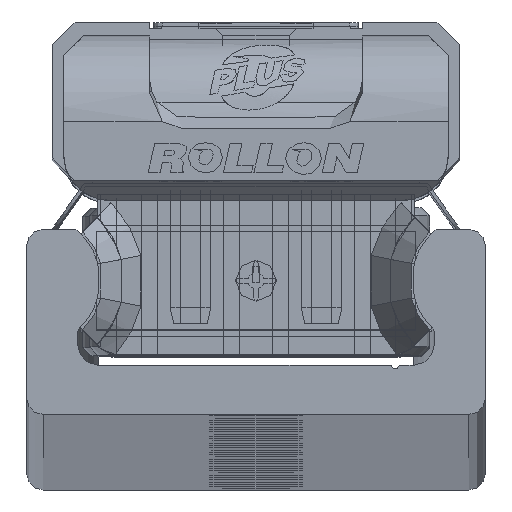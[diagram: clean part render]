
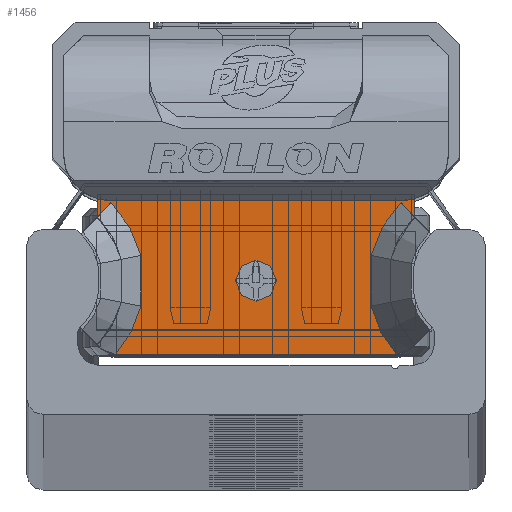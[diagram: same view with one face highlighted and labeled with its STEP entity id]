
A CAD part, top view. The second image highlights one B-rep face of the part: STEP entity #1456.
In plain terms, the highlighted planar face has unit normal (0, 0, 1) as drawn and (0, 0, -1) by its records, which use the part's own axes.
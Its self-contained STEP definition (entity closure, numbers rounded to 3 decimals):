
#1456 = ADVANCED_FACE( '', ( #3354, #3355 ), #3356, .F. );
#3354 = FACE_BOUND( '', #5772, .T. );
#3355 = FACE_OUTER_BOUND( '', #5773, .T. );
#3356 = PLANE( '', #5774 );
#5772 = EDGE_LOOP( '', ( #9739 ) );
#5773 = EDGE_LOOP( '', ( #9740, #9741, #9742, #9743, #9744, #9745, #9746, #9747, #9748, #9749, #9750, #9751, #9752, #9753 ) );
#5774 = AXIS2_PLACEMENT_3D( '', #9754, #9755, #9756 );
#9739 = ORIENTED_EDGE( '', *, *, #13340, .T. );
#9740 = ORIENTED_EDGE( '', *, *, #14453, .F. );
#9741 = ORIENTED_EDGE( '', *, *, #14454, .T. );
#9742 = ORIENTED_EDGE( '', *, *, #14455, .T. );
#9743 = ORIENTED_EDGE( '', *, *, #14384, .T. );
#9744 = ORIENTED_EDGE( '', *, *, #14456, .T. );
#9745 = ORIENTED_EDGE( '', *, *, #14457, .T. );
#9746 = ORIENTED_EDGE( '', *, *, #13217, .T. );
#9747 = ORIENTED_EDGE( '', *, *, #14458, .T. );
#9748 = ORIENTED_EDGE( '', *, *, #14459, .T. );
#9749 = ORIENTED_EDGE( '', *, *, #14369, .T. );
#9750 = ORIENTED_EDGE( '', *, *, #13249, .T. );
#9751 = ORIENTED_EDGE( '', *, *, #14460, .T. );
#9752 = ORIENTED_EDGE( '', *, *, #14173, .T. );
#9753 = ORIENTED_EDGE( '', *, *, #14461, .T. );
#9754 = CARTESIAN_POINT( '', ( 9.7, 4.89, -10.6 ) );
#9755 = DIRECTION( '', ( 0., 0., 1. ) );
#9756 = DIRECTION( '', ( 1., 0., 0. ) );
#13217 = EDGE_CURVE( '', #15614, #15615, #15616, .T. );
#13249 = EDGE_CURVE( '', #15664, #15672, #15674, .T. );
#13340 = EDGE_CURVE( '', #15833, #15833, #15834, .T. );
#14173 = EDGE_CURVE( '', #17198, #17199, #17200, .T. );
#14369 = EDGE_CURVE( '', #17489, #15664, #17504, .T. );
#14384 = EDGE_CURVE( '', #17521, #17526, #17528, .T. );
#14453 = EDGE_CURVE( '', #17625, #17626, #17627, .T. );
#14454 = EDGE_CURVE( '', #17625, #17628, #17629, .T. );
#14455 = EDGE_CURVE( '', #17628, #17521, #17630, .T. );
#14456 = EDGE_CURVE( '', #17526, #17631, #17632, .T. );
#14457 = EDGE_CURVE( '', #17631, #15614, #17633, .T. );
#14458 = EDGE_CURVE( '', #15615, #17634, #17635, .T. );
#14459 = EDGE_CURVE( '', #17634, #17489, #17636, .T. );
#14460 = EDGE_CURVE( '', #15672, #17198, #17637, .T. );
#14461 = EDGE_CURVE( '', #17199, #17626, #17638, .T. );
#15614 = VERTEX_POINT( '', #19109 );
#15615 = VERTEX_POINT( '', #19110 );
#15616 = B_SPLINE_CURVE_WITH_KNOTS( '', 2, ( #19111, #19112, #19113, #19114, #19115 ), .UNSPECIFIED., .F., .F., ( 3, 2, 3 ), ( 0., 0.5, 1. ), .UNSPECIFIED. );
#15664 = VERTEX_POINT( '', #19190 );
#15672 = VERTEX_POINT( '', #19210 );
#15674 = B_SPLINE_CURVE_WITH_KNOTS( '', 2, ( #19213, #19214, #19215 ), .UNSPECIFIED., .F., .F., ( 3, 3 ), ( 0.1, 1. ), .UNSPECIFIED. );
#15833 = VERTEX_POINT( '', #19427 );
#15834 = CIRCLE( '', #19428, 1.25 );
#17198 = VERTEX_POINT( '', #21311 );
#17199 = VERTEX_POINT( '', #21312 );
#17200 = B_SPLINE_CURVE_WITH_KNOTS( '', 2, ( #21313, #21314, #21315 ), .UNSPECIFIED., .F., .F., ( 3, 3 ), ( 0., 1. ), .UNSPECIFIED. );
#17489 = VERTEX_POINT( '', #21699 );
#17504 = LINE( '', #21719, #21720 );
#17521 = VERTEX_POINT( '', #21741 );
#17526 = VERTEX_POINT( '', #21747 );
#17528 = CIRCLE( '', #21750, 2.8 );
#17625 = VERTEX_POINT( '', #21911 );
#17626 = VERTEX_POINT( '', #21912 );
#17627 = LINE( '', #21913, #21914 );
#17628 = VERTEX_POINT( '', #21915 );
#17629 = CIRCLE( '', #21916, 2.8 );
#17630 = LINE( '', #21917, #21918 );
#17631 = VERTEX_POINT( '', #21919 );
#17632 = LINE( '', #21920, #21921 );
#17633 = LINE( '', #21922, #21923 );
#17634 = VERTEX_POINT( '', #21924 );
#17635 = B_SPLINE_CURVE_WITH_KNOTS( '', 2, ( #21925, #21926, #21927 ), .UNSPECIFIED., .F., .F., ( 3, 3 ), ( 0., 1. ), .UNSPECIFIED. );
#17636 = B_SPLINE_CURVE_WITH_KNOTS( '', 2, ( #21928, #21929, #21930 ), .UNSPECIFIED., .F., .F., ( 3, 3 ), ( 0., 1. ), .UNSPECIFIED. );
#17637 = B_SPLINE_CURVE_WITH_KNOTS( '', 2, ( #21931, #21932, #21933 ), .UNSPECIFIED., .F., .F., ( 3, 3 ), ( 0., 1. ), .UNSPECIFIED. );
#17638 = LINE( '', #21934, #21935 );
#19109 = CARTESIAN_POINT( '', ( 8.853, 4.366, -10.6 ) );
#19110 = CARTESIAN_POINT( '', ( 7.031, 1.144, -10.6 ) );
#19111 = CARTESIAN_POINT( '', ( 8.853, 4.366, -10.6 ) );
#19112 = CARTESIAN_POINT( '', ( 8.182, 3.708, -10.6 ) );
#19113 = CARTESIAN_POINT( '', ( 7.715, 2.883, -10.6 ) );
#19114 = CARTESIAN_POINT( '', ( 7.249, 2.058, -10.6 ) );
#19115 = CARTESIAN_POINT( '', ( 7.031, 1.144, -10.6 ) );
#19190 = CARTESIAN_POINT( '', ( -8.59, -4.893, -10.6 ) );
#19210 = CARTESIAN_POINT( '', ( -7.031, -1.944, -10.6 ) );
#19213 = CARTESIAN_POINT( '', ( -8.587, -4.89, -10.6 ) );
#19214 = CARTESIAN_POINT( '', ( -7.432, -3.63, -10.6 ) );
#19215 = CARTESIAN_POINT( '', ( -7.031, -1.944, -10.6 ) );
#19427 = CARTESIAN_POINT( '', ( 1.25, -0.39, -10.6 ) );
#19428 = AXIS2_PLACEMENT_3D( '', #23948, #23949, #23950 );
#21311 = CARTESIAN_POINT( '', ( -7.031, 1.144, -10.6 ) );
#21312 = CARTESIAN_POINT( '', ( -8.853, 4.366, -10.6 ) );
#21313 = CARTESIAN_POINT( '', ( -7.031, 1.144, -10.6 ) );
#21314 = CARTESIAN_POINT( '', ( -7.477, 3.018, -10.6 ) );
#21315 = CARTESIAN_POINT( '', ( -8.853, 4.366, -10.6 ) );
#21699 = CARTESIAN_POINT( '', ( 8.59, -4.893, -10.6 ) );
#21719 = CARTESIAN_POINT( '', ( 9.7, -4.89, -10.6 ) );
#21720 = VECTOR( '', #25406, 1000. );
#21741 = CARTESIAN_POINT( '', ( 8.95, 4.51, -10.6 ) );
#21747 = CARTESIAN_POINT( '', ( 9.7, 4.612, -10.6 ) );
#21750 = AXIS2_PLACEMENT_3D( '', #25434, #25435, #25436 );
#21911 = CARTESIAN_POINT( '', ( -9.7, 4.612, -10.6 ) );
#21912 = CARTESIAN_POINT( '', ( -9.7, 3.494, -10.6 ) );
#21913 = CARTESIAN_POINT( '', ( -9.7, 4.89, -10.6 ) );
#21914 = VECTOR( '', #25507, 1000. );
#21915 = CARTESIAN_POINT( '', ( -8.95, 4.51, -10.6 ) );
#21916 = AXIS2_PLACEMENT_3D( '', #25508, #25509, #25510 );
#21917 = CARTESIAN_POINT( '', ( 9.7, 4.51, -10.6 ) );
#21918 = VECTOR( '', #25511, 1000. );
#21919 = CARTESIAN_POINT( '', ( 9.7, 3.497, -10.6 ) );
#21920 = CARTESIAN_POINT( '', ( 9.7, 4.89, -10.6 ) );
#21921 = VECTOR( '', #25512, 1000. );
#21922 = CARTESIAN_POINT( '', ( 9.7, 3.501, -10.6 ) );
#21923 = VECTOR( '', #25513, 1000. );
#21924 = CARTESIAN_POINT( '', ( 7.031, -1.944, -10.6 ) );
#21925 = CARTESIAN_POINT( '', ( 7.031, 1.144, -10.6 ) );
#21926 = CARTESIAN_POINT( '', ( 6.929, -0.4, -10.6 ) );
#21927 = CARTESIAN_POINT( '', ( 7.031, -1.944, -10.6 ) );
#21928 = CARTESIAN_POINT( '', ( 7.031, -1.944, -10.6 ) );
#21929 = CARTESIAN_POINT( '', ( 7.429, -3.615, -10.6 ) );
#21930 = CARTESIAN_POINT( '', ( 8.588, -4.89, -10.6 ) );
#21931 = CARTESIAN_POINT( '', ( -7.031, -1.944, -10.6 ) );
#21932 = CARTESIAN_POINT( '', ( -6.929, -0.4, -10.6 ) );
#21933 = CARTESIAN_POINT( '', ( -7.031, 1.144, -10.6 ) );
#21934 = CARTESIAN_POINT( '', ( -8.853, 4.366, -10.6 ) );
#21935 = VECTOR( '', #25514, 1000. );
#23948 = CARTESIAN_POINT( '', ( 0., -0.39, -10.6 ) );
#23949 = DIRECTION( '', ( 0., 0., 1. ) );
#23950 = DIRECTION( '', ( 1., 0., 0. ) );
#25406 = DIRECTION( '', ( -1., 0., 0. ) );
#25434 = CARTESIAN_POINT( '', ( 8.95, 7.31, -10.6 ) );
#25435 = DIRECTION( '', ( 0., 0., 1. ) );
#25436 = DIRECTION( '', ( 1., 0., 0. ) );
#25507 = DIRECTION( '', ( 0., -1., 0. ) );
#25508 = CARTESIAN_POINT( '', ( -8.95, 7.31, -10.6 ) );
#25509 = DIRECTION( '', ( 0., 0., 1. ) );
#25510 = DIRECTION( '', ( 1., 0., 0. ) );
#25511 = DIRECTION( '', ( 1., 0., 0. ) );
#25512 = DIRECTION( '', ( 0., -1., 0. ) );
#25513 = DIRECTION( '', ( -0.7, 0.714, 0. ) );
#25514 = DIRECTION( '', ( -0.7, -0.714, 0. ) );
